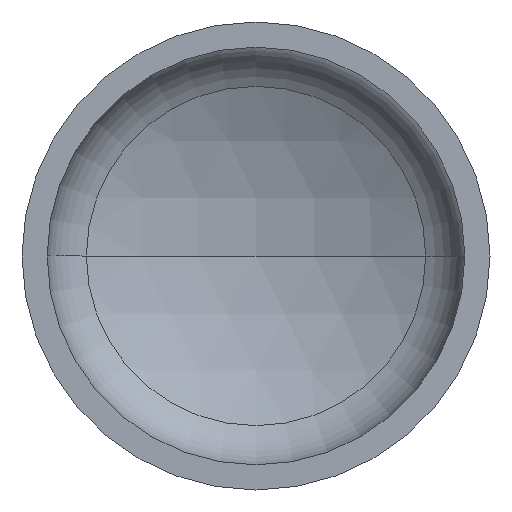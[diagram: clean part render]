
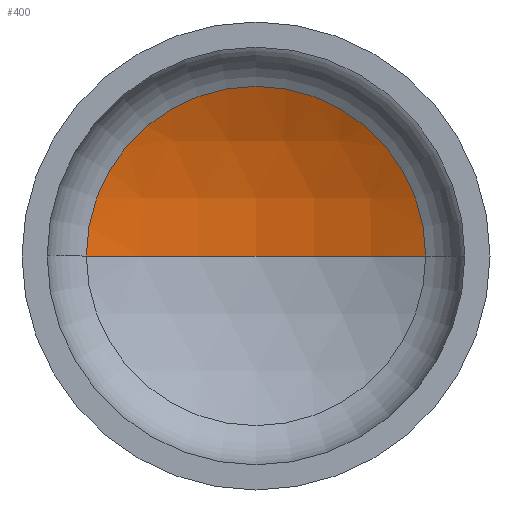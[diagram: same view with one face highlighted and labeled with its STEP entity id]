
A CAD part, front view. The second image highlights one B-rep face of the part: STEP entity #400.
In plain terms, the highlighted spherical face has radius 1280 mm.
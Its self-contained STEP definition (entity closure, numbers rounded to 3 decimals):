
#9 = AXIS2_PLACEMENT_3D ( 'NONE', #134, #275, #91 ) ;
#10 = AXIS2_PLACEMENT_3D ( 'NONE', #257, #211, #379 ) ;
#20 = AXIS2_PLACEMENT_3D ( 'NONE', #128, #123, #127 ) ;
#43 = EDGE_LOOP ( 'NONE', ( #171, #117, #139 ) ) ;
#52 = DIRECTION ( 'NONE',  ( 0., 0., -1. ) ) ;
#56 = CARTESIAN_POINT ( 'NONE',  ( 0., -822.64, 0. ) ) ;
#71 = VERTEX_POINT ( 'NONE', #328 ) ;
#73 = VERTEX_POINT ( 'NONE', #175 ) ;
#91 = DIRECTION ( 'NONE',  ( 1., 0., 0. ) ) ;
#109 = FACE_OUTER_BOUND ( 'NONE', #43, .T. ) ;
#117 = ORIENTED_EDGE ( 'NONE', *, *, #342, .T. ) ;
#123 = DIRECTION ( 'NONE',  ( 0., -1., 0. ) ) ;
#127 = DIRECTION ( 'NONE',  ( 1., 0., 0. ) ) ;
#128 = CARTESIAN_POINT ( 'NONE',  ( 0., 318.403, 0. ) ) ;
#134 = CARTESIAN_POINT ( 'NONE',  ( 0., -822.64, 0. ) ) ;
#139 = ORIENTED_EDGE ( 'NONE', *, *, #332, .T. ) ;
#152 = CIRCLE ( 'NONE', #9, 1280. ) ;
#153 = VERTEX_POINT ( 'NONE', #174 ) ;
#171 = ORIENTED_EDGE ( 'NONE', *, *, #343, .F. ) ;
#174 = CARTESIAN_POINT ( 'NONE',  ( -580.019, 318.403, 0. ) ) ;
#175 = CARTESIAN_POINT ( 'NONE',  ( 0., 457.36, 0. ) ) ;
#211 = DIRECTION ( 'NONE',  ( 0., 0., -1. ) ) ;
#257 = CARTESIAN_POINT ( 'NONE',  ( 0., -822.64, 0. ) ) ;
#275 = DIRECTION ( 'NONE',  ( 0., 0., 1. ) ) ;
#276 = SPHERICAL_SURFACE ( 'NONE', #386, 1280. ) ;
#283 = DIRECTION ( 'NONE',  ( -1., 0., 0. ) ) ;
#293 = CIRCLE ( 'NONE', #20, 580.019 ) ;
#314 = CIRCLE ( 'NONE', #10, 1280. ) ;
#328 = CARTESIAN_POINT ( 'NONE',  ( 580.019, 318.403, 0. ) ) ;
#332 = EDGE_CURVE ( 'NONE', #71, #153, #293, .T. ) ;
#342 = EDGE_CURVE ( 'NONE', #73, #71, #314, .T. ) ;
#343 = EDGE_CURVE ( 'NONE', #73, #153, #152, .T. ) ;
#379 = DIRECTION ( 'NONE',  ( -1., 0., 0. ) ) ;
#386 = AXIS2_PLACEMENT_3D ( 'NONE', #56, #52, #283 ) ;
#400 = ADVANCED_FACE ( 'NONE', ( #109 ), #276, .F. ) ;
